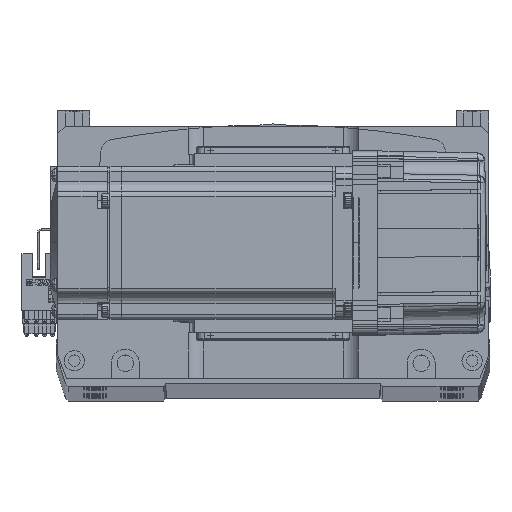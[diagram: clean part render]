
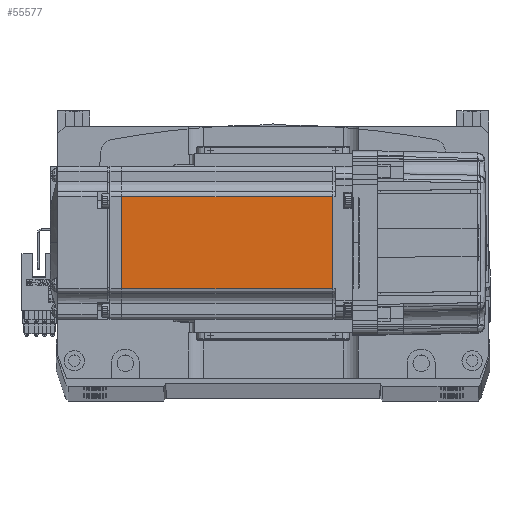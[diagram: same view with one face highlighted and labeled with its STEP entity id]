
A CAD part, top view. The second image highlights one B-rep face of the part: STEP entity #55577.
In plain terms, the highlighted planar face has unit normal (0, 0, 1).
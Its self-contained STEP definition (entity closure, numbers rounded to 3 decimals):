
#2102 = DIRECTION ( 'NONE',  ( 0., -1., 0. ) ) ;
#3217 = VERTEX_POINT ( 'NONE', #20179 ) ;
#3263 = LINE ( 'NONE', #25539, #13757 ) ;
#6020 = VERTEX_POINT ( 'NONE', #15772 ) ;
#9082 = DIRECTION ( 'NONE',  ( 0., 0., 1. ) ) ;
#9126 = CARTESIAN_POINT ( 'NONE',  ( -7.75, -18., 30. ) ) ;
#10255 = CARTESIAN_POINT ( 'NONE',  ( -90.45, 0., 30. ) ) ;
#10905 = EDGE_CURVE ( 'NONE', #3217, #61154, #25180, .T. ) ;
#13043 = ORIENTED_EDGE ( 'NONE', *, *, #46424, .T. ) ;
#13075 = EDGE_LOOP ( 'NONE', ( #63815, #13043, #56966, #62307 ) ) ;
#13757 = VECTOR ( 'NONE', #70466, 1000. ) ;
#15708 = CARTESIAN_POINT ( 'NONE',  ( -6.5, -18., 30. ) ) ;
#15772 = CARTESIAN_POINT ( 'NONE',  ( -7.75, 18., 30. ) ) ;
#19378 = EDGE_CURVE ( 'NONE', #34066, #61154, #21424, .T. ) ;
#20179 = CARTESIAN_POINT ( 'NONE',  ( -90.45, 18., 30. ) ) ;
#20605 = DIRECTION ( 'NONE',  ( 1., 0., 0. ) ) ;
#21424 = LINE ( 'NONE', #15708, #54653 ) ;
#25180 = LINE ( 'NONE', #10255, #47055 ) ;
#25539 = CARTESIAN_POINT ( 'NONE',  ( -6.5, 18., 30. ) ) ;
#26967 = DIRECTION ( 'NONE',  ( 0., -1., 0. ) ) ;
#28687 = LINE ( 'NONE', #69330, #33032 ) ;
#30816 = FACE_OUTER_BOUND ( 'NONE', #13075, .T. ) ;
#33032 = VECTOR ( 'NONE', #2102, 1000. ) ;
#34066 = VERTEX_POINT ( 'NONE', #9126 ) ;
#37749 = EDGE_CURVE ( 'NONE', #6020, #34066, #28687, .T. ) ;
#38755 = DIRECTION ( 'NONE',  ( -1., 0., 0. ) ) ;
#42593 = PLANE ( 'NONE',  #44563 ) ;
#44563 = AXIS2_PLACEMENT_3D ( 'NONE', #70213, #9082, #20605 ) ;
#44909 = CARTESIAN_POINT ( 'NONE',  ( -90.45, -18., 30. ) ) ;
#46424 = EDGE_CURVE ( 'NONE', #6020, #3217, #3263, .T. ) ;
#47055 = VECTOR ( 'NONE', #26967, 1000. ) ;
#54653 = VECTOR ( 'NONE', #38755, 1000. ) ;
#55577 = ADVANCED_FACE ( 'NONE', ( #30816 ), #42593, .T. ) ;
#56966 = ORIENTED_EDGE ( 'NONE', *, *, #10905, .T. ) ;
#61154 = VERTEX_POINT ( 'NONE', #44909 ) ;
#62307 = ORIENTED_EDGE ( 'NONE', *, *, #19378, .F. ) ;
#63815 = ORIENTED_EDGE ( 'NONE', *, *, #37749, .F. ) ;
#69330 = CARTESIAN_POINT ( 'NONE',  ( -7.75, 0., 30. ) ) ;
#70213 = CARTESIAN_POINT ( 'NONE',  ( -6.5, -25., 30. ) ) ;
#70466 = DIRECTION ( 'NONE',  ( -1., 0., 0. ) ) ;
